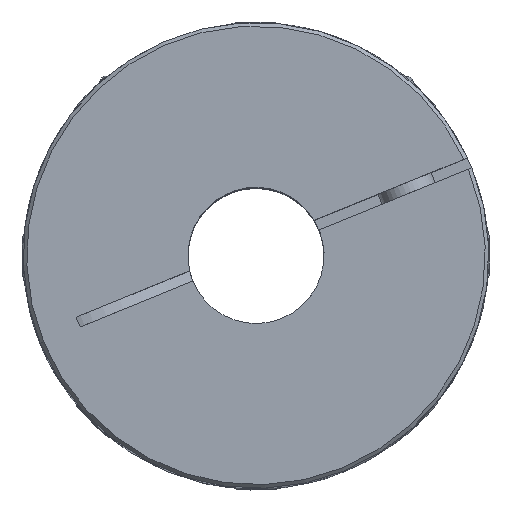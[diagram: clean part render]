
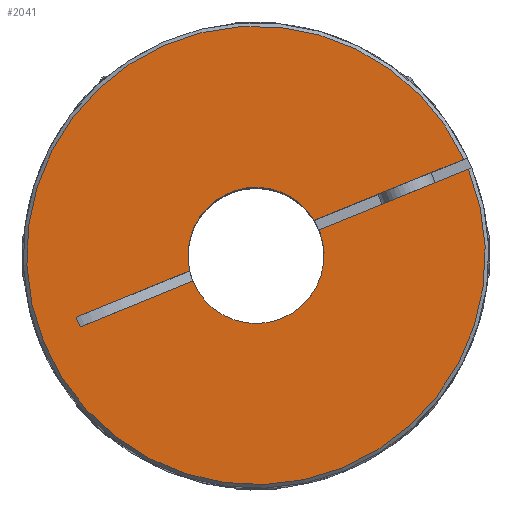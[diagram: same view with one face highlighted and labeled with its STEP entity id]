
A CAD part, top view. The second image highlights one B-rep face of the part: STEP entity #2041.
In plain terms, the highlighted planar face has unit normal (0, 0, 1) as drawn and (0, 0, -1) by its records, which use the part's own axes.
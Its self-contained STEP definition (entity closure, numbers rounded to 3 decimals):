
#294 = AXIS2_PLACEMENT_3D ( 'NONE', #6109, #9681, #10580 ) ;
#374 = CARTESIAN_POINT ( 'NONE',  ( -32.5, 1.5, 0. ) ) ;
#383 = AXIS2_PLACEMENT_3D ( 'NONE', #1795, #8190, #7242 ) ;
#573 = CARTESIAN_POINT ( 'NONE',  ( 32., 0., 0. ) ) ;
#585 = LINE ( 'NONE', #11502, #9419 ) ;
#647 = DIRECTION ( 'NONE',  ( 0., -1., 0. ) ) ;
#1100 = ORIENTED_EDGE ( 'NONE', *, *, #4250, .T. ) ;
#1217 = ORIENTED_EDGE ( 'NONE', *, *, #9827, .F. ) ;
#1501 = CARTESIAN_POINT ( 'NONE',  ( -32., 0., 0. ) ) ;
#1505 = DIRECTION ( 'NONE',  ( 1., 0., 0. ) ) ;
#1732 = VECTOR ( 'NONE', #7292, 1000. ) ;
#1795 = CARTESIAN_POINT ( 'NONE',  ( 0., 0., 0. ) ) ;
#1896 = VERTEX_POINT ( 'NONE', #2979 ) ;
#1971 = EDGE_CURVE ( 'NONE', #3347, #3890, #10529, .T. ) ;
#2041 = ADVANCED_FACE ( 'NONE', ( #10521 ), #2398, .F. ) ;
#2056 = ORIENTED_EDGE ( 'NONE', *, *, #10262, .T. ) ;
#2097 = AXIS2_PLACEMENT_3D ( 'NONE', #10692, #4330, #1505 ) ;
#2280 = CIRCLE ( 'NONE', #4345, 9.5 ) ;
#2336 = CARTESIAN_POINT ( 'NONE',  ( -9.381, 1.5, 0. ) ) ;
#2398 = PLANE ( 'NONE',  #2097 ) ;
#2496 = CARTESIAN_POINT ( 'NONE',  ( 0., 0., 0. ) ) ;
#2516 = CARTESIAN_POINT ( 'NONE',  ( -32.5, 0., 0. ) ) ;
#2979 = CARTESIAN_POINT ( 'NONE',  ( 9.381, 1.5, 0. ) ) ;
#3279 = DIRECTION ( 'NONE',  ( -1., 0., 0. ) ) ;
#3318 = CARTESIAN_POINT ( 'NONE',  ( -9.5, 0., 0. ) ) ;
#3347 = VERTEX_POINT ( 'NONE', #3318 ) ;
#3618 = LINE ( 'NONE', #10805, #1732 ) ;
#3683 = VERTEX_POINT ( 'NONE', #573 ) ;
#3722 = ORIENTED_EDGE ( 'NONE', *, *, #11349, .T. ) ;
#3740 = DIRECTION ( 'NONE',  ( -1., 0., 0. ) ) ;
#3797 = LINE ( 'NONE', #374, #10852 ) ;
#3890 = VERTEX_POINT ( 'NONE', #7422 ) ;
#3972 = EDGE_CURVE ( 'NONE', #9039, #3890, #7607, .T. ) ;
#4148 = ORIENTED_EDGE ( 'NONE', *, *, #4593, .T. ) ;
#4155 = EDGE_CURVE ( 'NONE', #3347, #8904, #4393, .T. ) ;
#4250 = EDGE_CURVE ( 'NONE', #9436, #3683, #4907, .T. ) ;
#4298 = AXIS2_PLACEMENT_3D ( 'NONE', #11052, #9928, #5569 ) ;
#4330 = DIRECTION ( 'NONE',  ( 0., 0., 1. ) ) ;
#4345 = AXIS2_PLACEMENT_3D ( 'NONE', #2496, #6096, #8835 ) ;
#4393 = LINE ( 'NONE', #2516, #5091 ) ;
#4593 = EDGE_CURVE ( 'NONE', #1896, #7708, #2280, .T. ) ;
#4676 = ORIENTED_EDGE ( 'NONE', *, *, #4155, .F. ) ;
#4907 = CIRCLE ( 'NONE', #383, 32. ) ;
#5091 = VECTOR ( 'NONE', #9684, 1000. ) ;
#5569 = DIRECTION ( 'NONE',  ( 1., 0., 0. ) ) ;
#5805 = ORIENTED_EDGE ( 'NONE', *, *, #1971, .T. ) ;
#6096 = DIRECTION ( 'NONE',  ( 0., 0., 1. ) ) ;
#6109 = CARTESIAN_POINT ( 'NONE',  ( 0., 0., 0. ) ) ;
#6366 = VERTEX_POINT ( 'NONE', #9168 ) ;
#6786 = VECTOR ( 'NONE', #3279, 1000. ) ;
#7242 = DIRECTION ( 'NONE',  ( 1., 0., 0. ) ) ;
#7292 = DIRECTION ( 'NONE',  ( -1., 0., 0. ) ) ;
#7422 = CARTESIAN_POINT ( 'NONE',  ( 9.5, 0., 0. ) ) ;
#7607 = LINE ( 'NONE', #7728, #6786 ) ;
#7708 = VERTEX_POINT ( 'NONE', #2336 ) ;
#7728 = CARTESIAN_POINT ( 'NONE',  ( -32.5, 0., 0. ) ) ;
#8190 = DIRECTION ( 'NONE',  ( 0., 0., -1. ) ) ;
#8341 = ORIENTED_EDGE ( 'NONE', *, *, #10005, .T. ) ;
#8656 = CARTESIAN_POINT ( 'NONE',  ( -31.965, 1.5, 0. ) ) ;
#8835 = DIRECTION ( 'NONE',  ( 1., 0., 0. ) ) ;
#8854 = CIRCLE ( 'NONE', #4298, 32. ) ;
#8904 = VERTEX_POINT ( 'NONE', #1501 ) ;
#9039 = VERTEX_POINT ( 'NONE', #9846 ) ;
#9168 = CARTESIAN_POINT ( 'NONE',  ( 26.5, 1.5, 0. ) ) ;
#9206 = ORIENTED_EDGE ( 'NONE', *, *, #3972, .F. ) ;
#9419 = VECTOR ( 'NONE', #647, 1000. ) ;
#9436 = VERTEX_POINT ( 'NONE', #8656 ) ;
#9681 = DIRECTION ( 'NONE',  ( 0., 0., 1. ) ) ;
#9684 = DIRECTION ( 'NONE',  ( -1., 0., 0. ) ) ;
#9827 = EDGE_CURVE ( 'NONE', #6366, #9039, #585, .T. ) ;
#9846 = CARTESIAN_POINT ( 'NONE',  ( 26.5, 0., 0. ) ) ;
#9928 = DIRECTION ( 'NONE',  ( 0., 0., -1. ) ) ;
#10005 = EDGE_CURVE ( 'NONE', #3683, #8904, #8854, .T. ) ;
#10262 = EDGE_CURVE ( 'NONE', #6366, #1896, #3618, .T. ) ;
#10440 = EDGE_LOOP ( 'NONE', ( #3722, #1100, #8341, #4676, #5805, #9206, #1217, #2056, #4148 ) ) ;
#10521 = FACE_OUTER_BOUND ( 'NONE', #10440, .T. ) ;
#10529 = CIRCLE ( 'NONE', #294, 9.5 ) ;
#10580 = DIRECTION ( 'NONE',  ( 1., 0., 0. ) ) ;
#10692 = CARTESIAN_POINT ( 'NONE',  ( 0., 0., 0. ) ) ;
#10805 = CARTESIAN_POINT ( 'NONE',  ( -32.5, 1.5, 0. ) ) ;
#10852 = VECTOR ( 'NONE', #3740, 1000. ) ;
#11052 = CARTESIAN_POINT ( 'NONE',  ( 0., 0., 0. ) ) ;
#11349 = EDGE_CURVE ( 'NONE', #7708, #9436, #3797, .T. ) ;
#11502 = CARTESIAN_POINT ( 'NONE',  ( 26.5, 1.5, 0. ) ) ;
